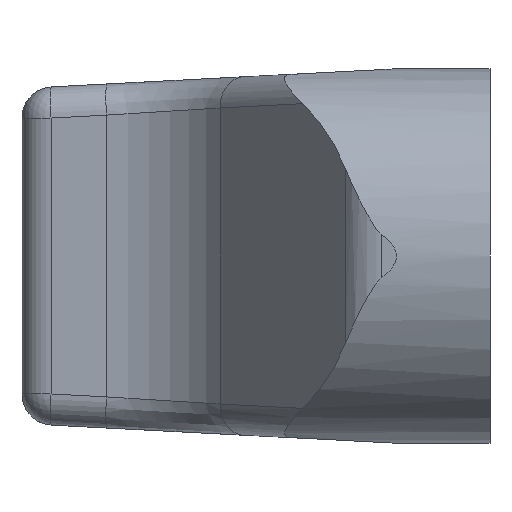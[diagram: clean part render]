
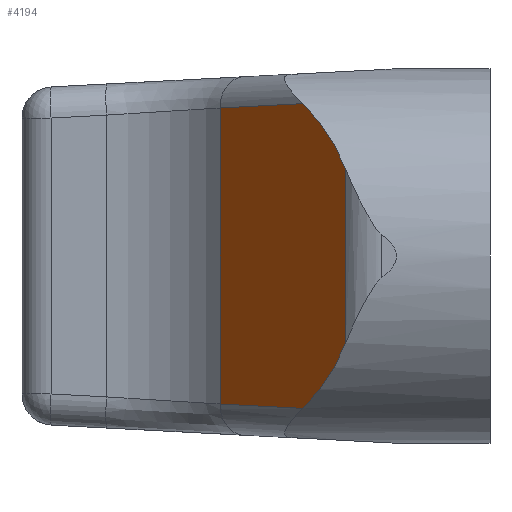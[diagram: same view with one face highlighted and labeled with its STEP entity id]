
A CAD part, left-side view. The second image highlights one B-rep face of the part: STEP entity #4194.
In plain terms, the highlighted planar face has unit normal (-0.602, 0.798, 0).
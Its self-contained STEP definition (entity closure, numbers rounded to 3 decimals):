
#157 = VERTEX_POINT ( 'NONE', #4925 ) ;
#314 = CARTESIAN_POINT ( 'NONE',  ( 0.68, 1.621, -2.775 ) ) ;
#545 = CARTESIAN_POINT ( 'NONE',  ( 6.025, 5.651, 6. ) ) ;
#574 = EDGE_CURVE ( 'NONE', #4301, #3665, #2585, .T. ) ;
#634 = AXIS2_PLACEMENT_3D ( 'NONE', #545, #4103, #1045 ) ;
#905 = VERTEX_POINT ( 'NONE', #3111 ) ;
#1009 = FACE_OUTER_BOUND ( 'NONE', #1666, .T. ) ;
#1045 = DIRECTION ( 'NONE',  ( 0.798, 0.602, 0. ) ) ;
#1087 = CARTESIAN_POINT ( 'NONE',  ( 6.025, 5.651, 6. ) ) ;
#1528 = PLANE ( 'NONE',  #634 ) ;
#1540 = ORIENTED_EDGE ( 'NONE', *, *, #4878, .F. ) ;
#1666 = EDGE_LOOP ( 'NONE', ( #2010, #4539, #3026, #1540, #5225, #3996 ) ) ;
#1847 = CARTESIAN_POINT ( 'NONE',  ( 2.514, 3.003, -4.883 ) ) ;
#2010 = ORIENTED_EDGE ( 'NONE', *, *, #3372, .F. ) ;
#2270 = LINE ( 'NONE', #4753, #6054 ) ;
#2367 = CARTESIAN_POINT ( 'NONE',  ( 1.742, 2.421, 4.332 ) ) ;
#2578 = VECTOR ( 'NONE', #4629, 1000. ) ;
#2585 = LINE ( 'NONE', #4640, #6353 ) ;
#2866 = CARTESIAN_POINT ( 'NONE',  ( 0.68, 1.621, 2.775 ) ) ;
#2918 = DIRECTION ( 'NONE',  ( -0.798, -0.602, 0.032 ) ) ;
#3026 = ORIENTED_EDGE ( 'NONE', *, *, #6246, .T. ) ;
#3111 = CARTESIAN_POINT ( 'NONE',  ( 6.025, 5.651, 4.744 ) ) ;
#3170 = CARTESIAN_POINT ( 'NONE',  ( 0.68, 1.621, 2.775 ) ) ;
#3235 = CARTESIAN_POINT ( 'NONE',  ( 1.119, 1.952, -3.616 ) ) ;
#3363 = CARTESIAN_POINT ( 'NONE',  ( 2.514, 3.003, 4.883 ) ) ;
#3372 = EDGE_CURVE ( 'NONE', #157, #4301, #5062, .T. ) ;
#3616 = VECTOR ( 'NONE', #2918, 1000. ) ;
#3665 = VERTEX_POINT ( 'NONE', #5583 ) ;
#3996 = ORIENTED_EDGE ( 'NONE', *, *, #574, .F. ) ;
#4103 = DIRECTION ( 'NONE',  ( 0.602, -0.798, 0. ) ) ;
#4171 = VERTEX_POINT ( 'NONE', #4576 ) ;
#4188 = VERTEX_POINT ( 'NONE', #4552 ) ;
#4194 = ADVANCED_FACE ( 'NONE', ( #1009 ), #1528, .F. ) ;
#4301 = VERTEX_POINT ( 'NONE', #3170 ) ;
#4519 = EDGE_CURVE ( 'NONE', #905, #157, #4934, .T. ) ;
#4539 = ORIENTED_EDGE ( 'NONE', *, *, #4519, .F. ) ;
#4552 = CARTESIAN_POINT ( 'NONE',  ( 6.025, 5.651, -4.744 ) ) ;
#4576 = CARTESIAN_POINT ( 'NONE',  ( 2.514, 3.003, -4.883 ) ) ;
#4629 = DIRECTION ( 'NONE',  ( 0., 0., -1. ) ) ;
#4640 = CARTESIAN_POINT ( 'NONE',  ( 0.68, 1.621, 6. ) ) ;
#4753 = CARTESIAN_POINT ( 'NONE',  ( 4.33, 4.373, -4.811 ) ) ;
#4854 = CARTESIAN_POINT ( 'NONE',  ( 1.742, 2.421, -4.332 ) ) ;
#4878 = EDGE_CURVE ( 'NONE', #4171, #4188, #2270, .T. ) ;
#4906 = CARTESIAN_POINT ( 'NONE',  ( 6.001, 5.633, 4.745 ) ) ;
#4925 = CARTESIAN_POINT ( 'NONE',  ( 2.514, 3.003, 4.883 ) ) ;
#4934 = LINE ( 'NONE', #4906, #3616 ) ;
#4948 = EDGE_CURVE ( 'NONE', #3665, #4171, #5745, .T. ) ;
#5062 =( BOUNDED_CURVE ( )  B_SPLINE_CURVE ( 3, ( #3363, #2367, #5841, #2866 ),
 .UNSPECIFIED., .F., .F. ) 
 B_SPLINE_CURVE_WITH_KNOTS ( ( 4, 4 ),
 ( 5.332, 5.802 ),
 .UNSPECIFIED. ) 
 CURVE ( )  GEOMETRIC_REPRESENTATION_ITEM ( )  RATIONAL_B_SPLINE_CURVE ( ( 1., 0.982, 0.982, 1. ) ) 
 REPRESENTATION_ITEM ( '' )  );
#5225 = ORIENTED_EDGE ( 'NONE', *, *, #4948, .F. ) ;
#5236 = DIRECTION ( 'NONE',  ( 0.798, 0.602, 0.032 ) ) ;
#5249 = LINE ( 'NONE', #1087, #2578 ) ;
#5583 = CARTESIAN_POINT ( 'NONE',  ( 0.68, 1.621, -2.775 ) ) ;
#5740 = DIRECTION ( 'NONE',  ( 0., 0., -1. ) ) ;
#5745 =( BOUNDED_CURVE ( )  B_SPLINE_CURVE ( 3, ( #314, #3235, #4854, #1847 ),
 .UNSPECIFIED., .F., .F. ) 
 B_SPLINE_CURVE_WITH_KNOTS ( ( 4, 4 ),
 ( 0.481, 0.951 ),
 .UNSPECIFIED. ) 
 CURVE ( )  GEOMETRIC_REPRESENTATION_ITEM ( )  RATIONAL_B_SPLINE_CURVE ( ( 1., 0.982, 0.982, 1. ) ) 
 REPRESENTATION_ITEM ( '' )  );
#5841 = CARTESIAN_POINT ( 'NONE',  ( 1.119, 1.952, 3.616 ) ) ;
#6054 = VECTOR ( 'NONE', #5236, 1000. ) ;
#6246 = EDGE_CURVE ( 'NONE', #905, #4188, #5249, .T. ) ;
#6353 = VECTOR ( 'NONE', #5740, 1000. ) ;
